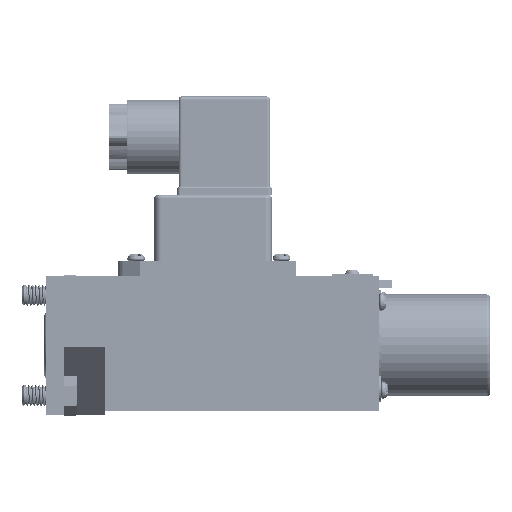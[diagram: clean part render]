
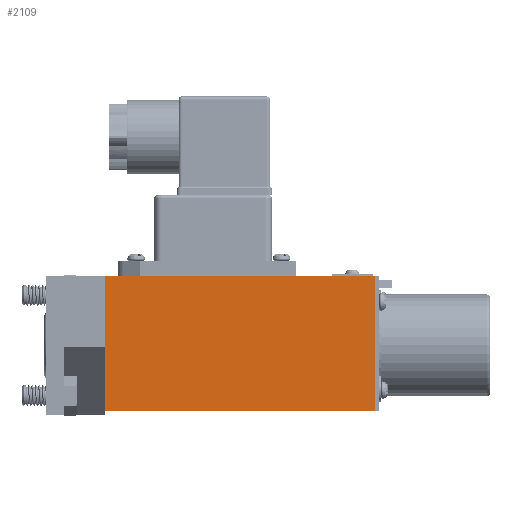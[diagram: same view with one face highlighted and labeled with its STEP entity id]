
A CAD part, front view. The second image highlights one B-rep face of the part: STEP entity #2109.
In plain terms, the highlighted planar face has unit normal (0, -1, 0).
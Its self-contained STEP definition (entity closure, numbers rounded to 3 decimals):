
#1344=FACE_OUTER_BOUND('',#4427,.T.);
#2109=ADVANCED_FACE('',(#1344),#2802,.F.);
#2802=PLANE('',#15837);
#4427=EDGE_LOOP('',(#7442,#7443,#7444,#7445));
#7442=ORIENTED_EDGE('',*,*,#12004,.T.);
#7443=ORIENTED_EDGE('',*,*,#12019,.F.);
#7444=ORIENTED_EDGE('',*,*,#12044,.F.);
#7445=ORIENTED_EDGE('',*,*,#12037,.T.);
#10314=VERTEX_POINT('',#41238);
#10315=VERTEX_POINT('',#41239);
#10328=VERTEX_POINT('',#41327);
#10346=VERTEX_POINT('',#41497);
#12004=EDGE_CURVE('',#10314,#10315,#13631,.T.);
#12019=EDGE_CURVE('',#10328,#10315,#13637,.T.);
#12037=EDGE_CURVE('',#10346,#10314,#13638,.T.);
#12044=EDGE_CURVE('',#10346,#10328,#13645,.T.);
#13631=LINE('',#41237,#14795);
#13637=LINE('',#41328,#14801);
#13638=LINE('',#41496,#14802);
#13645=LINE('',#41510,#14809);
#14795=VECTOR('',#18012,1.);
#14801=VECTOR('',#18030,1.);
#14802=VECTOR('',#18051,1.);
#14809=VECTOR('',#18060,1.);
#15837=AXIS2_PLACEMENT_3D('',#41511,#18061,#18062);
#18012=DIRECTION('',(-1.,0.,0.));
#18030=DIRECTION('',(0.,0.,1.));
#18051=DIRECTION('',(0.,0.,1.));
#18060=DIRECTION('',(-1.,0.,0.));
#18061=DIRECTION('',(0.,1.,0.));
#18062=DIRECTION('',(0.,0.,-1.));
#41237=CARTESIAN_POINT('',(214.295,65.73,0.));
#41238=CARTESIAN_POINT('',(214.295,65.73,0.));
#41239=CARTESIAN_POINT('',(136.295,65.73,0.));
#41327=CARTESIAN_POINT('',(136.295,65.73,-39.));
#41328=CARTESIAN_POINT('',(136.295,65.73,-39.));
#41496=CARTESIAN_POINT('',(214.295,65.73,-39.));
#41497=CARTESIAN_POINT('',(214.295,65.73,-39.));
#41510=CARTESIAN_POINT('',(214.295,65.73,-39.));
#41511=CARTESIAN_POINT('',(214.295,65.73,-39.));
